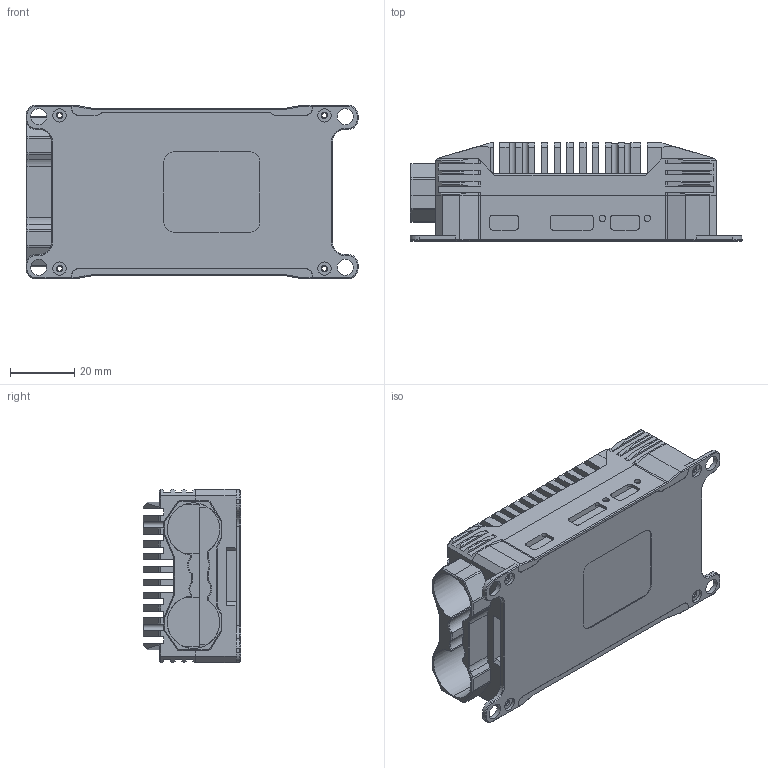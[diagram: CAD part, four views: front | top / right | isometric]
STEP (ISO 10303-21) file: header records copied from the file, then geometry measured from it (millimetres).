
FILE_DESCRIPTION(/* description */ (''),/* implementation_level */ '2;1');
FILE_NAME(/* name */ 'Aureus 265 CAD.step',/* time_stamp */ '2026-08-07T09:13:48+02:00',/* author */ (''),/* organization */ (''),/* preprocessor_version */ 'ST-DEVELOPER v20.1',/* originating_system */ 'Autodesk Translation Framework v15.8.0.0',/* authorisation */ '');
FILE_SCHEMA (('AUTOMOTIVE_DESIGN { 1 0 10303 214 3 1 1 }'));
Length unit declared in the file: millimetre
Products named in the file (4): Aureus 265 - Nur Gehäuse Neu; Oberteil; Unterteil; Deckel
Assembly tree (3 placements, depth 2):
  Aureus 265 - Nur Gehäuse Neu
    Oberteil
    Unterteil
    Deckel
Bounding box: 103.7 x 30.55 x 54.1 mm (x, y, z)
Volume: 105774.3 mm3; surface area: 55652.6 mm2
Topology: 3 solids, 3 shells, 1316 faces, 3447 edges, 2258 vertices
Faces by surface type: plane 1136, cylinder 144, cone 32, torus 4
Full cylindrical faces by diameter (mm): 1.623 x4, 2 x10, 2.529 x2, 4.2 x4, 5 x4
Entity records: 40184 total; most frequent: CARTESIAN_POINT 7233, ORIENTED_EDGE 6890, DIRECTION 6389, EDGE_CURVE 3445, LINE 3093, VECTOR 3093, VERTEX_POINT 2258, AXIS2_PLACEMENT_3D 1648
